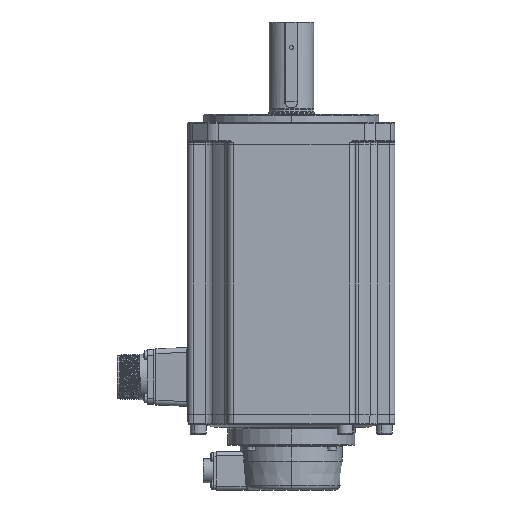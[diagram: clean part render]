
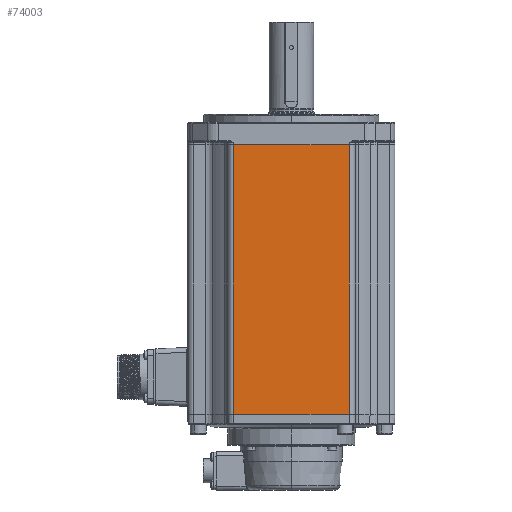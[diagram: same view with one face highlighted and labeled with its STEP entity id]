
A CAD part, left-side view. The second image highlights one B-rep face of the part: STEP entity #74003.
In plain terms, the highlighted planar face has unit normal (-1, 0, 0).
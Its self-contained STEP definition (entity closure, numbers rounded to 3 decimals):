
#4273 = EDGE_LOOP ( 'NONE', ( #69396, #25985, #39204, #64243 ) ) ;
#5171 = DIRECTION ( 'NONE',  ( 0., 1., 0. ) ) ;
#17750 = VERTEX_POINT ( 'NONE', #68508 ) ;
#18808 = EDGE_CURVE ( 'NONE', #35293, #17750, #56426, .T. ) ;
#25985 = ORIENTED_EDGE ( 'NONE', *, *, #60991, .F. ) ;
#29142 = DIRECTION ( 'NONE',  ( 0., 0., -1. ) ) ;
#29400 = CARTESIAN_POINT ( 'NONE',  ( -65., -36.401, 0. ) ) ;
#33616 = VERTEX_POINT ( 'NONE', #100533 ) ;
#35293 = VERTEX_POINT ( 'NONE', #92084 ) ;
#39204 = ORIENTED_EDGE ( 'NONE', *, *, #82400, .F. ) ;
#40783 = VECTOR ( 'NONE', #29142, 1000. ) ;
#44426 = FACE_OUTER_BOUND ( 'NONE', #4273, .T. ) ;
#47108 = LINE ( 'NONE', #56476, #50678 ) ;
#50147 = CARTESIAN_POINT ( 'NONE',  ( -65., 36.401, 169.4 ) ) ;
#50678 = VECTOR ( 'NONE', #64248, 1000. ) ;
#52206 = LINE ( 'NONE', #75063, #40783 ) ;
#53090 = DIRECTION ( 'NONE',  ( 0., -1., 0. ) ) ;
#54319 = PLANE ( 'NONE',  #92805 ) ;
#56426 = LINE ( 'NONE', #50147, #64491 ) ;
#56476 = CARTESIAN_POINT ( 'NONE',  ( -65., 0., 0. ) ) ;
#60991 = EDGE_CURVE ( 'NONE', #33616, #71590, #52206, .T. ) ;
#61887 = LINE ( 'NONE', #92139, #88297 ) ;
#64243 = ORIENTED_EDGE ( 'NONE', *, *, #18808, .T. ) ;
#64248 = DIRECTION ( 'NONE',  ( 0., -1., 0. ) ) ;
#64491 = VECTOR ( 'NONE', #88184, 1000. ) ;
#68508 = CARTESIAN_POINT ( 'NONE',  ( -65., 36.401, 0. ) ) ;
#69396 = ORIENTED_EDGE ( 'NONE', *, *, #78065, .T. ) ;
#71590 = VERTEX_POINT ( 'NONE', #29400 ) ;
#74003 = ADVANCED_FACE ( 'NONE', ( #44426 ), #54319, .F. ) ;
#75063 = CARTESIAN_POINT ( 'NONE',  ( -65., -36.401, 169.4 ) ) ;
#76185 = CARTESIAN_POINT ( 'NONE',  ( -65., 0., 169.4 ) ) ;
#78065 = EDGE_CURVE ( 'NONE', #17750, #71590, #47108, .T. ) ;
#82400 = EDGE_CURVE ( 'NONE', #35293, #33616, #61887, .T. ) ;
#84545 = DIRECTION ( 'NONE',  ( 1., 0., 0. ) ) ;
#88184 = DIRECTION ( 'NONE',  ( 0., 0., -1. ) ) ;
#88297 = VECTOR ( 'NONE', #53090, 1000. ) ;
#92084 = CARTESIAN_POINT ( 'NONE',  ( -65., 36.401, 169.4 ) ) ;
#92139 = CARTESIAN_POINT ( 'NONE',  ( -65., 0., 169.4 ) ) ;
#92805 = AXIS2_PLACEMENT_3D ( 'NONE', #76185, #84545, #5171 ) ;
#100533 = CARTESIAN_POINT ( 'NONE',  ( -65., -36.401, 169.4 ) ) ;
